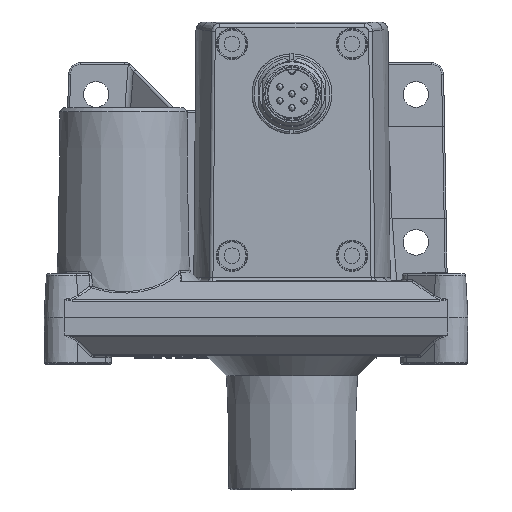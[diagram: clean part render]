
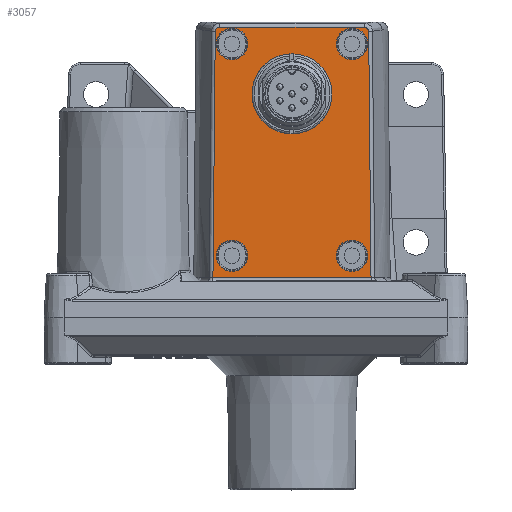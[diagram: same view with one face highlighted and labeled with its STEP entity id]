
A CAD part, top view. The second image highlights one B-rep face of the part: STEP entity #3057.
In plain terms, the highlighted planar face has unit normal (0, 0, 1).
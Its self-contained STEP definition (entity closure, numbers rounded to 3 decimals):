
#499=FACE_BOUND('',#6263,.T.);
#500=FACE_BOUND('',#6264,.T.);
#501=FACE_BOUND('',#6265,.T.);
#502=FACE_BOUND('',#6266,.T.);
#503=FACE_BOUND('',#6267,.T.);
#504=FACE_BOUND('',#6268,.T.);
#3057=ADVANCED_FACE('',(#499,#500,#501,#502,#503,#504),#3463,.T.);
#3463=PLANE('',#23631);
#6263=EDGE_LOOP('',(#15202));
#6264=EDGE_LOOP('',(#15203));
#6265=EDGE_LOOP('',(#15204));
#6266=EDGE_LOOP('',(#15205));
#6267=EDGE_LOOP('',(#15206));
#6268=EDGE_LOOP('',(#15207,#15208,#15209,#15210,#15211,#15212));
#7569=LINE('',#46523,#8659);
#7570=LINE('',#46565,#8660);
#8659=VECTOR('',#28466,1.);
#8660=VECTOR('',#28473,1.);
#9417=CIRCLE('',#23612,3.933);
#9419=CIRCLE('',#23615,3.933);
#9421=CIRCLE('',#23618,3.933);
#9423=CIRCLE('',#23621,3.933);
#9425=CIRCLE('',#23630,10.);
#15202=ORIENTED_EDGE('',*,*,#20538,.F.);
#15203=ORIENTED_EDGE('',*,*,#20522,.F.);
#15204=ORIENTED_EDGE('',*,*,#20520,.F.);
#15205=ORIENTED_EDGE('',*,*,#20518,.F.);
#15206=ORIENTED_EDGE('',*,*,#20516,.F.);
#15207=ORIENTED_EDGE('',*,*,#20537,.F.);
#15208=ORIENTED_EDGE('',*,*,#20528,.T.);
#15209=ORIENTED_EDGE('',*,*,#20530,.T.);
#15210=ORIENTED_EDGE('',*,*,#20532,.T.);
#15211=ORIENTED_EDGE('',*,*,#20534,.T.);
#15212=ORIENTED_EDGE('',*,*,#20536,.T.);
#17449=VERTEX_POINT('',#46366);
#17451=VERTEX_POINT('',#46371);
#17453=VERTEX_POINT('',#46376);
#17455=VERTEX_POINT('',#46381);
#17457=VERTEX_POINT('',#46458);
#17458=VERTEX_POINT('',#46465);
#17459=VERTEX_POINT('',#46475);
#17460=VERTEX_POINT('',#46522);
#17461=VERTEX_POINT('',#46529);
#17462=VERTEX_POINT('',#46559);
#17463=VERTEX_POINT('',#46568);
#20516=EDGE_CURVE('',#17449,#17449,#9417,.T.);
#20518=EDGE_CURVE('',#17451,#17451,#9419,.T.);
#20520=EDGE_CURVE('',#17453,#17453,#9421,.T.);
#20522=EDGE_CURVE('',#17455,#17455,#9423,.T.);
#20528=EDGE_CURVE('',#17457,#17458,#21872,.T.);
#20530=EDGE_CURVE('',#17458,#17459,#21874,.T.);
#20532=EDGE_CURVE('',#17459,#17460,#7569,.T.);
#20534=EDGE_CURVE('',#17460,#17461,#21877,.T.);
#20536=EDGE_CURVE('',#17461,#17462,#21878,.T.);
#20537=EDGE_CURVE('',#17457,#17462,#7570,.T.);
#20538=EDGE_CURVE('',#17463,#17463,#9425,.T.);
#21872=B_SPLINE_CURVE_WITH_KNOTS('',3,(#46466,#46467,#46468,#46469),
 .UNSPECIFIED.,.F.,.F.,(4,4),(0.,1.),.UNSPECIFIED.);
#21874=B_SPLINE_CURVE_WITH_KNOTS('',3,(#46476,#46477,#46478,#46479),
 .UNSPECIFIED.,.F.,.F.,(4,4),(0.,1.),.UNSPECIFIED.);
#21877=B_SPLINE_CURVE_WITH_KNOTS('',3,(#46530,#46531,#46532,#46533),
 .UNSPECIFIED.,.F.,.F.,(4,4),(0.,1.),.UNSPECIFIED.);
#21878=B_SPLINE_CURVE_WITH_KNOTS('',3,(#46560,#46561,#46562,#46563),
 .UNSPECIFIED.,.F.,.F.,(4,4),(0.,1.),.UNSPECIFIED.);
#23612=AXIS2_PLACEMENT_3D('',#46365,#28438,#28439);
#23615=AXIS2_PLACEMENT_3D('',#46370,#28444,#28445);
#23618=AXIS2_PLACEMENT_3D('',#46375,#28450,#28451);
#23621=AXIS2_PLACEMENT_3D('',#46380,#28456,#28457);
#23630=AXIS2_PLACEMENT_3D('',#46567,#28476,#28477);
#23631=AXIS2_PLACEMENT_3D('',#46569,#28478,#28479);
#28438=DIRECTION('',(0.,0.,1.));
#28439=DIRECTION('',(0.,-1.,0.));
#28444=DIRECTION('',(0.,0.,1.));
#28445=DIRECTION('',(0.,-1.,0.));
#28450=DIRECTION('',(0.,0.,1.));
#28451=DIRECTION('',(0.,-1.,0.));
#28456=DIRECTION('',(0.,0.,1.));
#28457=DIRECTION('',(0.,-1.,0.));
#28466=DIRECTION('',(-1.,0.,0.));
#28473=DIRECTION('',(-1.,0.,0.));
#28476=DIRECTION('',(0.,0.,1.));
#28477=DIRECTION('',(1.,0.,0.));
#28478=DIRECTION('',(0.,0.,1.));
#28479=DIRECTION('',(0.,-1.,0.));
#46365=CARTESIAN_POINT('',(31.535,-51.92,42.698));
#46366=CARTESIAN_POINT('',(31.535,-55.854,42.698));
#46370=CARTESIAN_POINT('',(1.535,-51.92,42.698));
#46371=CARTESIAN_POINT('',(1.535,-55.854,42.698));
#46375=CARTESIAN_POINT('',(31.535,1.08,42.698));
#46376=CARTESIAN_POINT('',(31.535,-2.854,42.698));
#46380=CARTESIAN_POINT('',(1.535,1.08,42.698));
#46381=CARTESIAN_POINT('',(1.535,-2.854,42.698));
#46458=CARTESIAN_POINT('',(36.306,-57.32,42.698));
#46465=CARTESIAN_POINT('',(35.724,4.239,42.698));
#46466=CARTESIAN_POINT('',(36.306,-57.32,42.698));
#46467=CARTESIAN_POINT('',(36.112,-36.8,42.698));
#46468=CARTESIAN_POINT('',(35.918,-16.28,42.698));
#46469=CARTESIAN_POINT('',(35.724,4.239,42.698));
#46475=CARTESIAN_POINT('',(34.66,5.212,42.698));
#46476=CARTESIAN_POINT('',(35.724,4.239,42.698));
#46477=CARTESIAN_POINT('',(35.718,4.761,42.698));
#46478=CARTESIAN_POINT('',(35.226,5.211,42.698));
#46479=CARTESIAN_POINT('',(34.66,5.212,42.698));
#46522=CARTESIAN_POINT('',(-1.589,5.212,42.698));
#46523=CARTESIAN_POINT('',(-1.17,5.212,42.698));
#46529=CARTESIAN_POINT('',(-2.653,4.239,42.698));
#46530=CARTESIAN_POINT('',(-1.589,5.212,42.698));
#46531=CARTESIAN_POINT('',(-2.154,5.211,42.698));
#46532=CARTESIAN_POINT('',(-2.648,4.761,42.698));
#46533=CARTESIAN_POINT('',(-2.653,4.239,42.698));
#46559=CARTESIAN_POINT('',(-3.235,-57.32,42.698));
#46560=CARTESIAN_POINT('',(-2.653,4.239,42.698));
#46561=CARTESIAN_POINT('',(-2.847,-16.28,42.698));
#46562=CARTESIAN_POINT('',(-3.041,-36.8,42.698));
#46563=CARTESIAN_POINT('',(-3.235,-57.32,42.698));
#46565=CARTESIAN_POINT('',(36.307,-57.32,42.698));
#46567=CARTESIAN_POINT('',(16.535,-11.42,42.698));
#46568=CARTESIAN_POINT('',(26.535,-11.42,42.698));
#46569=CARTESIAN_POINT('',(-7.465,6.58,42.698));
